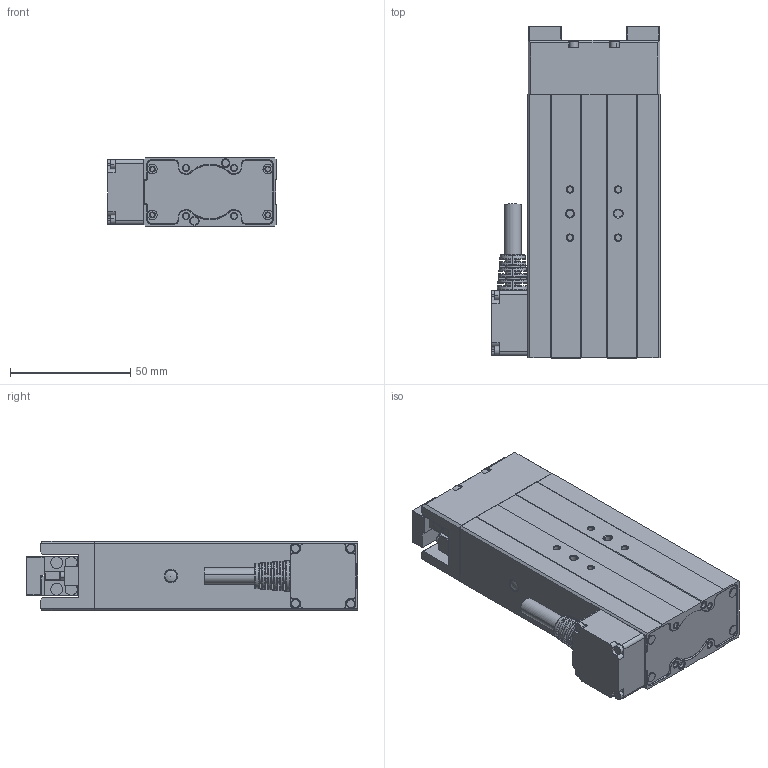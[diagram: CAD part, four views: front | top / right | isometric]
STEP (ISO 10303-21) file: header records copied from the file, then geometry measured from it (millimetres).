
FILE_DESCRIPTION (( 'STEP AP203' ), '1' );
FILE_NAME ('PGEA-15-26-W-O-F_V1.0 PGEA-50-26-W-O-F_V1.0 PGEA-100-26-O-F_V1.0_3D_20241220.STEP', '2024-12-26T05:37:17', ( '' ), ( '' ), 'SwSTEP 2.0', 'SolidWorks 2020', '' );
FILE_SCHEMA (( 'CONFIG_CONTROL_DESIGN' ));
Length unit declared in the file: millimetre
Products named in the file (20): 复件 复件 M2-2-5头-0.5厚^左基座_PGEA-100-26-W - 虚拟组件; 复件 复件 PGEA底盖^电爪本体_PGEA-100-26-W - 虚拟组件; 复件 挡块更新^电爪本体_PGEA-100-26-W - 虚拟组件; 复件 复件 PGE-50新基座0.5模数^右基座_PGEA-100-26-W - 虚拟组件; 电爪本体^PGEA-100-26-W - 虚拟组件; hexagon socket head cap screws gb._GB_FASTENER_SCREWS_HSHCS M2X8-N; 复件 复件 LIGHT-PIPE^电爪本体_PGEA-100-26-W - 虚拟组件; 衵價釱^PGEA-100-26-W - 剞攜郪璃; 复件 复件 M2-2-5头-0.5厚^右基座_PGEA-100-26-W - 虚拟组件; 复件 复件 M2.5x25 头径3.8宽度2.5小圆柱头^电爪本体_PGEA-100-26-W - 虚拟组件; PGEA-15-26-W-O-F_V1.0 PGEA-50-26-W-O-F_V1.0 PGEA-100-26-O-F_V1.0_3D_20241220; 复件 复件 网尾安装件A-20241119^电爪本体_PGEA-100-26-W - 虚拟组件; 复件 复件 PGE50_Main cover^电爪本体_PGEA-100-26-W - 虚拟组件; 复件 复件 ?3x6圆柱销^电爪本体_PGEA-100-26-W - 虚拟组件; 复件 复件 M2-4-4头-0.5厚^电爪本体_PGEA-100-26-W - 虚拟组件; 复件 复件 PGE-50U件连接板^电爪本体_PGEA-100-26-W - 虚拟组件; hexagon socket head cap screws gb._GB_FASTENER_SCREWS_HSHCS M2X16-N; 复件 复件 PGE-50新基座0.5模数^左基座_PGEA-100-26-W - 虚拟组件; 酘價釱^PGEA-100-26-W - 剞攜郪璃; 复件 复件 M12-PGEA-普通网尾V2-20241122^电爪本体_PGEA-100-26-W - 虚拟组件
Assembly tree (39 placements, depth 3):
  PGEA-15-26-W-O-F_V1.0 PGEA-50-26-W-O-F_V1.0 PGEA-100-26-O-F_V1.0_3D_20241220
    酘價釱^PGEA-100-26-W - 剞攜郪璃
      复件 复件 PGE-50新基座0.5模数^左基座_PGEA-100-26-W - 虚拟组件
      复件 复件 M2-2-5头-0.5厚^左基座_PGEA-100-26-W - 虚拟组件  x4
    衵價釱^PGEA-100-26-W - 剞攜郪璃
      复件 复件 PGE-50新基座0.5模数^右基座_PGEA-100-26-W - 虚拟组件
      复件 复件 M2-2-5头-0.5厚^右基座_PGEA-100-26-W - 虚拟组件  x4
    电爪本体^PGEA-100-26-W - 虚拟组件
      复件 复件 网尾安装件A-20241119^电爪本体_PGEA-100-26-W - 虚拟组件
      复件 复件 M12-PGEA-普通网尾V2-20241122^电爪本体_PGEA-100-26-W - 虚拟组件
      复件 复件 M2-4-4头-0.5厚^电爪本体_PGEA-100-26-W - 虚拟组件  x4
      复件 复件 M2.5x25 头径3.8宽度2.5小圆柱头^电爪本体_PGEA-100-26-W - 虚拟组件  x4
      hexagon socket head cap screws gb._GB_FASTENER_SCREWS_HSHCS M2X16-N  x4
      复件 复件 ?3x6圆柱销^电爪本体_PGEA-100-26-W - 虚拟组件  x2
      复件 复件 LIGHT-PIPE^电爪本体_PGEA-100-26-W - 虚拟组件
      复件 复件 PGEA底盖^电爪本体_PGEA-100-26-W - 虚拟组件
      复件 复件 PGE50_Main cover^电爪本体_PGEA-100-26-W - 虚拟组件
      hexagon socket head cap screws gb._GB_FASTENER_SCREWS_HSHCS M2X8-N  x4
      复件 复件 PGE-50U件连接板^电爪本体_PGEA-100-26-W - 虚拟组件
      复件 挡块更新^电爪本体_PGEA-100-26-W - 虚拟组件  x2
Bounding box: 70 x 138 x 29 mm (x, y, z)
Volume: 216005.5 mm3; surface area: 48749.2 mm2
Topology: 36 solids, 36 shells, 1067 faces, 2475 edges, 1540 vertices
Faces by surface type: plane 443, cylinder 322, cone 221, torus 51, bspline 29, sphere 1
Entity records: 28992 total; most frequent: CARTESIAN_POINT 5560, DIRECTION 4514, ORIENTED_EDGE 4200, EDGE_CURVE 2100, AXIS2_PLACEMENT_3D 1656, VERTEX_POINT 1312, VECTOR 1202, LINE 1202
